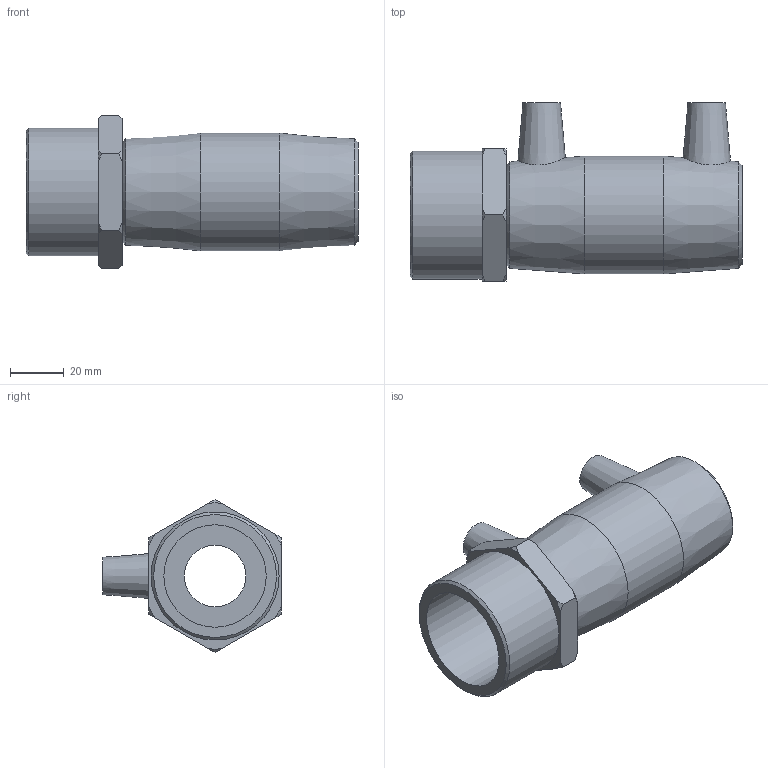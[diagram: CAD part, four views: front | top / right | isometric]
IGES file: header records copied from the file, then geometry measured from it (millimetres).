
Global section: file name: 492104032015.ipt; native system: Autodesk Inventor 2015; preprocessor: unknown; author: KIM; date: 20200202.122308; units: millimetre
Bounding box: 124 x 66.77 x 57.2 mm (x, y, z)
Volume: 106823 mm3; surface area: 37678.4 mm2
Topology: 1 solids, 2 shells, 54 faces, 129 edges, 88 vertices
Faces by surface type: plane 21, cone 19, revolution 8, cylinder 6
Full cylindrical faces by diameter (mm): 4 x2, 32 x2, 44 x1, 47.803 x1
